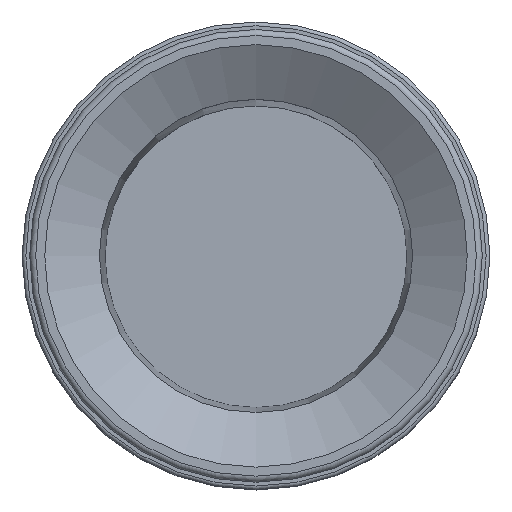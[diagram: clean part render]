
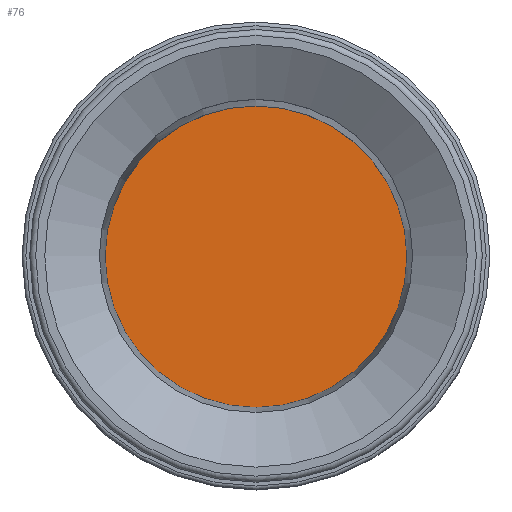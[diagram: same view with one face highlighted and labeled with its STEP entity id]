
A CAD part, top view. The second image highlights one B-rep face of the part: STEP entity #76.
In plain terms, the highlighted planar face has unit normal (0, 0, 1).
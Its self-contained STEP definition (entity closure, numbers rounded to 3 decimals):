
#76=ADVANCED_FACE('',(#133),#134,.F.);
#133=FACE_OUTER_BOUND('',#278,.T.);
#134=PLANE('',#279);
#278=EDGE_LOOP('',(#430));
#279=AXIS2_PLACEMENT_3D('',#431,#432,#433);
#430=ORIENTED_EDGE('',*,*,#768,.T.);
#431=CARTESIAN_POINT('',(-20.0,0.,-80.0));
#432=DIRECTION('',(0.0,0.,-1.0));
#433=DIRECTION('',(0.0,1.0,0.));
#768=EDGE_CURVE('',#862,#862,#863,.T.);
#862=VERTEX_POINT('',#1030);
#863=CIRCLE('',#1031,20.0);
#1030=CARTESIAN_POINT('',(0.0,-20.0,-80.0));
#1031=AXIS2_PLACEMENT_3D('',#1262,#1263,#1264);
#1262=CARTESIAN_POINT('',(0.0,0.,-80.0));
#1263=DIRECTION('',(0.0,0.,1.0));
#1264=DIRECTION('',(0.0,-1.0,0.));
